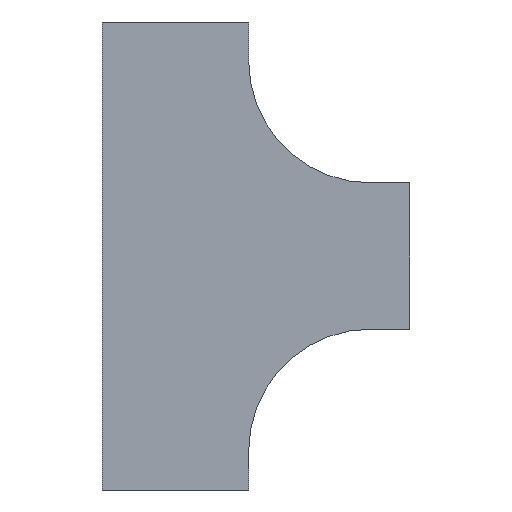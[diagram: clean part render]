
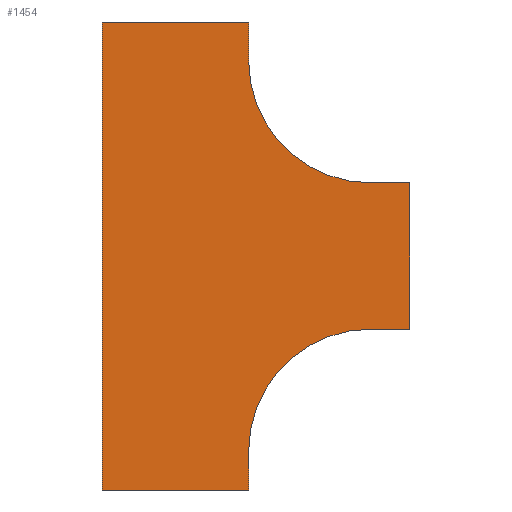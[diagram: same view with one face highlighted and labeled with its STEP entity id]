
A CAD part, front view. The second image highlights one B-rep face of the part: STEP entity #1454.
In plain terms, the highlighted planar face has unit normal (0, -1, 0).
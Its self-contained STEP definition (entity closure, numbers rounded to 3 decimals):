
#36 = LINE ( 'NONE', #2215, #1065 ) ;
#63 = VERTEX_POINT ( 'NONE', #1201 ) ;
#80 = DIRECTION ( 'NONE',  ( 0., -1., 0. ) ) ;
#88 = CARTESIAN_POINT ( 'NONE',  ( -275., 0., 40. ) ) ;
#130 = EDGE_CURVE ( 'NONE', #860, #2290, #320, .T. ) ;
#143 = FACE_OUTER_BOUND ( 'NONE', #1012, .T. ) ;
#155 = CARTESIAN_POINT ( 'NONE',  ( -275., 0., -440. ) ) ;
#186 = VECTOR ( 'NONE', #236, 1000. ) ;
#219 = DIRECTION ( 'NONE',  ( 1., 0., 0. ) ) ;
#236 = DIRECTION ( 'NONE',  ( 1., 0., 0. ) ) ;
#261 = ORIENTED_EDGE ( 'NONE', *, *, #1782, .F. ) ;
#292 = CARTESIAN_POINT ( 'NONE',  ( 40., 0., -125. ) ) ;
#320 = LINE ( 'NONE', #292, #645 ) ;
#355 = VECTOR ( 'NONE', #875, 1000. ) ;
#384 = CARTESIAN_POINT ( 'NONE',  ( 0., 0., -125. ) ) ;
#385 = CARTESIAN_POINT ( 'NONE',  ( 40., 0., -275. ) ) ;
#405 = DIRECTION ( 'NONE',  ( 0., -1., 0. ) ) ;
#410 = CARTESIAN_POINT ( 'NONE',  ( -125., 0., 0. ) ) ;
#412 = CARTESIAN_POINT ( 'NONE',  ( 0., 0., 0. ) ) ;
#570 = ORIENTED_EDGE ( 'NONE', *, *, #1523, .F. ) ;
#618 = VERTEX_POINT ( 'NONE', #384 ) ;
#645 = VECTOR ( 'NONE', #649, 1000. ) ;
#649 = DIRECTION ( 'NONE',  ( 0., 0., -1. ) ) ;
#658 = VECTOR ( 'NONE', #1592, 1000. ) ;
#665 = VERTEX_POINT ( 'NONE', #1872 ) ;
#700 = CARTESIAN_POINT ( 'NONE',  ( -125., 0., 40. ) ) ;
#704 = DIRECTION ( 'NONE',  ( 0., 0., 1. ) ) ;
#725 = VECTOR ( 'NONE', #219, 1000. ) ;
#731 = EDGE_CURVE ( 'NONE', #2353, #926, #2221, .T. ) ;
#860 = VERTEX_POINT ( 'NONE', #1342 ) ;
#867 = CARTESIAN_POINT ( 'NONE',  ( 0., 0., 0. ) ) ;
#875 = DIRECTION ( 'NONE',  ( 0., 0., -1. ) ) ;
#918 = ORIENTED_EDGE ( 'NONE', *, *, #731, .F. ) ;
#926 = VERTEX_POINT ( 'NONE', #700 ) ;
#1012 = EDGE_LOOP ( 'NONE', ( #918, #2046, #1805, #1886, #570, #1964, #1348, #2355, #1532, #261 ) ) ;
#1037 = DIRECTION ( 'NONE',  ( -1., 0., 0. ) ) ;
#1065 = VECTOR ( 'NONE', #1623, 1000. ) ;
#1076 = LINE ( 'NONE', #1467, #1762 ) ;
#1082 = EDGE_CURVE ( 'NONE', #2290, #63, #36, .T. ) ;
#1103 = CIRCLE ( 'NONE', #1785, 125. ) ;
#1113 = CIRCLE ( 'NONE', #2069, 125. ) ;
#1139 = EDGE_CURVE ( 'NONE', #618, #860, #1810, .T. ) ;
#1191 = EDGE_CURVE ( 'NONE', #1855, #618, #1103, .T. ) ;
#1201 = CARTESIAN_POINT ( 'NONE',  ( 0., 0., -275. ) ) ;
#1232 = DIRECTION ( 'NONE',  ( 0., 0., -1. ) ) ;
#1296 = CARTESIAN_POINT ( 'NONE',  ( -125., 0., -440. ) ) ;
#1342 = CARTESIAN_POINT ( 'NONE',  ( 40., 0., -125. ) ) ;
#1348 = ORIENTED_EDGE ( 'NONE', *, *, #130, .F. ) ;
#1416 = PLANE ( 'NONE',  #1595 ) ;
#1445 = CARTESIAN_POINT ( 'NONE',  ( -125., 0., 40. ) ) ;
#1454 = ADVANCED_FACE ( 'NONE', ( #143 ), #1416, .T. ) ;
#1467 = CARTESIAN_POINT ( 'NONE',  ( -275., 0., -440. ) ) ;
#1470 = EDGE_CURVE ( 'NONE', #1612, #665, #2346, .T. ) ;
#1471 = LINE ( 'NONE', #1445, #658 ) ;
#1523 = EDGE_CURVE ( 'NONE', #63, #1766, #1113, .T. ) ;
#1532 = ORIENTED_EDGE ( 'NONE', *, *, #1191, .F. ) ;
#1592 = DIRECTION ( 'NONE',  ( 0., 0., -1. ) ) ;
#1595 = AXIS2_PLACEMENT_3D ( 'NONE', #867, #1600, #1232 ) ;
#1600 = DIRECTION ( 'NONE',  ( 0., -1., 0. ) ) ;
#1612 = VERTEX_POINT ( 'NONE', #1296 ) ;
#1623 = DIRECTION ( 'NONE',  ( -1., 0., 0. ) ) ;
#1688 = DIRECTION ( 'NONE',  ( 0., 0., -1. ) ) ;
#1691 = DIRECTION ( 'NONE',  ( 0., 0., 1. ) ) ;
#1762 = VECTOR ( 'NONE', #704, 1000. ) ;
#1763 = EDGE_CURVE ( 'NONE', #1766, #1612, #1818, .T. ) ;
#1766 = VERTEX_POINT ( 'NONE', #2155 ) ;
#1782 = EDGE_CURVE ( 'NONE', #926, #1855, #1471, .T. ) ;
#1785 = AXIS2_PLACEMENT_3D ( 'NONE', #412, #80, #1688 ) ;
#1805 = ORIENTED_EDGE ( 'NONE', *, *, #1470, .F. ) ;
#1810 = LINE ( 'NONE', #2008, #186 ) ;
#1818 = LINE ( 'NONE', #2340, #355 ) ;
#1855 = VERTEX_POINT ( 'NONE', #410 ) ;
#1872 = CARTESIAN_POINT ( 'NONE',  ( -275., 0., -440. ) ) ;
#1886 = ORIENTED_EDGE ( 'NONE', *, *, #1763, .F. ) ;
#1964 = ORIENTED_EDGE ( 'NONE', *, *, #1082, .F. ) ;
#2008 = CARTESIAN_POINT ( 'NONE',  ( 0., 0., -125. ) ) ;
#2046 = ORIENTED_EDGE ( 'NONE', *, *, #2089, .F. ) ;
#2047 = CARTESIAN_POINT ( 'NONE',  ( 0., 0., -400. ) ) ;
#2069 = AXIS2_PLACEMENT_3D ( 'NONE', #2047, #405, #1691 ) ;
#2089 = EDGE_CURVE ( 'NONE', #665, #2353, #1076, .T. ) ;
#2155 = CARTESIAN_POINT ( 'NONE',  ( -125., 0., -400. ) ) ;
#2215 = CARTESIAN_POINT ( 'NONE',  ( 0., 0., -275. ) ) ;
#2218 = VECTOR ( 'NONE', #1037, 1000. ) ;
#2221 = LINE ( 'NONE', #2232, #725 ) ;
#2232 = CARTESIAN_POINT ( 'NONE',  ( -275., 0., 40. ) ) ;
#2290 = VERTEX_POINT ( 'NONE', #385 ) ;
#2340 = CARTESIAN_POINT ( 'NONE',  ( -125., 0., -440. ) ) ;
#2346 = LINE ( 'NONE', #155, #2218 ) ;
#2353 = VERTEX_POINT ( 'NONE', #88 ) ;
#2355 = ORIENTED_EDGE ( 'NONE', *, *, #1139, .F. ) ;
